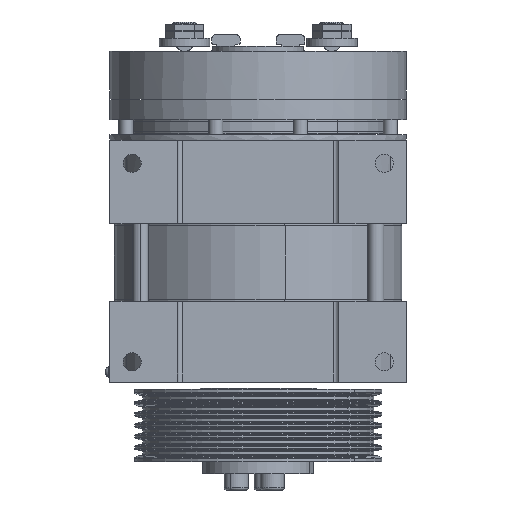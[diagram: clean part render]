
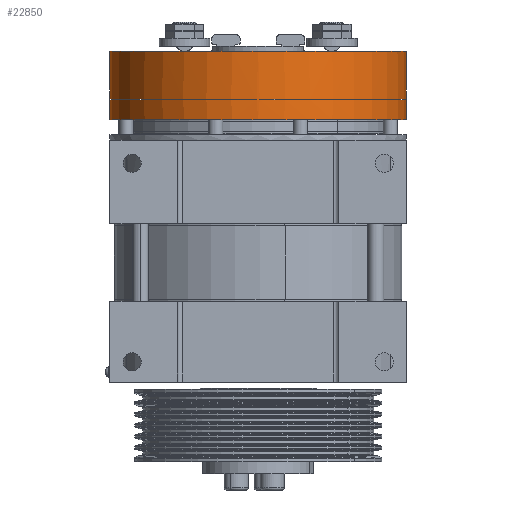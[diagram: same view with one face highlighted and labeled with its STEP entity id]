
A CAD part, front view. The second image highlights one B-rep face of the part: STEP entity #22850.
In plain terms, the highlighted cylindrical face has radius 147 mm (diameter 294 mm), a partial arc.
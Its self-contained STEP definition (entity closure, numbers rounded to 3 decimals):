
#1984 = CARTESIAN_POINT ( 'NONE',  ( -79.123, 17.34, 232.5 ) ) ;
#2468 = AXIS2_PLACEMENT_3D ( 'NONE', #24758, #52070, #64671 ) ;
#2995 = DIRECTION ( 'NONE',  ( 0., 1., 0. ) ) ;
#3074 = CARTESIAN_POINT ( 'NONE',  ( -224.623, -129.653, 125.43 ) ) ;
#3101 = ORIENTED_EDGE ( 'NONE', *, *, #53522, .T. ) ;
#3381 = ORIENTED_EDGE ( 'NONE', *, *, #11643, .F. ) ;
#4843 = CYLINDRICAL_SURFACE ( 'NONE', #68826, 147. ) ;
#4955 = CARTESIAN_POINT ( 'NONE',  ( -227.623, -129.653, 252.5 ) ) ;
#5248 = DIRECTION ( 'NONE',  ( 1., 0., 0. ) ) ;
#6685 = VERTEX_POINT ( 'NONE', #72410 ) ;
#6701 = CIRCLE ( 'NONE', #41310, 147. ) ;
#7099 = VERTEX_POINT ( 'NONE', #65667 ) ;
#8932 = EDGE_CURVE ( 'NONE', #29171, #78934, #65347, .T. ) ;
#9102 = VECTOR ( 'NONE', #42946, 1000. ) ;
#10123 = CARTESIAN_POINT ( 'NONE',  ( -79.123, 17.34, 252.5 ) ) ;
#10681 = LINE ( 'NONE', #70924, #57908 ) ;
#10918 = ORIENTED_EDGE ( 'NONE', *, *, #63093, .T. ) ;
#11643 = EDGE_CURVE ( 'NONE', #16127, #38223, #49287, .T. ) ;
#11947 = DIRECTION ( 'NONE',  ( 0., 0., 1. ) ) ;
#12671 = ORIENTED_EDGE ( 'NONE', *, *, #24014, .T. ) ;
#14081 = LINE ( 'NONE', #40116, #36235 ) ;
#15296 = DIRECTION ( 'NONE',  ( 0., 0., 1. ) ) ;
#15346 = VERTEX_POINT ( 'NONE', #19715 ) ;
#15392 = VECTOR ( 'NONE', #81413, 1000. ) ;
#16127 = VERTEX_POINT ( 'NONE', #4955 ) ;
#18840 = CARTESIAN_POINT ( 'NONE',  ( -226.123, 17.34, 252.5 ) ) ;
#19715 = CARTESIAN_POINT ( 'NONE',  ( -373.123, 17.34, 300.5 ) ) ;
#22850 = ADVANCED_FACE ( 'NONE', ( #37729 ), #4843, .T. ) ;
#24014 = EDGE_CURVE ( 'NONE', #77982, #29171, #10681, .T. ) ;
#24048 = DIRECTION ( 'NONE',  ( 0., 0., 1. ) ) ;
#24297 = CARTESIAN_POINT ( 'NONE',  ( -226.123, 17.34, 173.5 ) ) ;
#24758 = CARTESIAN_POINT ( 'NONE',  ( -226.123, 17.34, 300.5 ) ) ;
#25190 = EDGE_LOOP ( 'NONE', ( #73299, #51967, #12671, #64638, #80114, #73411, #66643, #64782, #31333, #10918, #3381, #3101 ) ) ;
#27632 = EDGE_CURVE ( 'NONE', #78934, #39356, #69804, .T. ) ;
#29005 = VERTEX_POINT ( 'NONE', #56101 ) ;
#29171 = VERTEX_POINT ( 'NONE', #10123 ) ;
#29534 = LINE ( 'NONE', #29964, #66597 ) ;
#29964 = CARTESIAN_POINT ( 'NONE',  ( -373.123, 17.34, 173.5 ) ) ;
#31333 = ORIENTED_EDGE ( 'NONE', *, *, #75247, .F. ) ;
#33075 = DIRECTION ( 'NONE',  ( 0., -1., 0. ) ) ;
#36235 = VECTOR ( 'NONE', #40532, 1000. ) ;
#36984 = CIRCLE ( 'NONE', #46707, 147. ) ;
#37606 = DIRECTION ( 'NONE',  ( 0., -1., 0. ) ) ;
#37729 = FACE_OUTER_BOUND ( 'NONE', #25190, .T. ) ;
#38223 = VERTEX_POINT ( 'NONE', #52945 ) ;
#39356 = VERTEX_POINT ( 'NONE', #83337 ) ;
#40116 = CARTESIAN_POINT ( 'NONE',  ( -373.123, 17.34, 173.5 ) ) ;
#40532 = DIRECTION ( 'NONE',  ( 0., 0., 1. ) ) ;
#41310 = AXIS2_PLACEMENT_3D ( 'NONE', #67511, #60173, #54071 ) ;
#42614 = DIRECTION ( 'NONE',  ( -1., 0., 0. ) ) ;
#42876 = CIRCLE ( 'NONE', #74731, 147. ) ;
#42946 = DIRECTION ( 'NONE',  ( 0., 0., 1. ) ) ;
#45034 = CARTESIAN_POINT ( 'NONE',  ( -79.123, 17.34, 253. ) ) ;
#45278 = DIRECTION ( 'NONE',  ( 0., 0., -1. ) ) ;
#46707 = AXIS2_PLACEMENT_3D ( 'NONE', #84066, #82346, #2995 ) ;
#48117 = VECTOR ( 'NONE', #24048, 1000. ) ;
#48223 = VERTEX_POINT ( 'NONE', #61483 ) ;
#49287 = LINE ( 'NONE', #67932, #15392 ) ;
#50381 = DIRECTION ( 'NONE',  ( 0., 0., 1. ) ) ;
#50769 = VERTEX_POINT ( 'NONE', #45034 ) ;
#51967 = ORIENTED_EDGE ( 'NONE', *, *, #59875, .T. ) ;
#52070 = DIRECTION ( 'NONE',  ( 0., 0., 1. ) ) ;
#52945 = CARTESIAN_POINT ( 'NONE',  ( -227.623, -129.653, 253. ) ) ;
#53077 = EDGE_CURVE ( 'NONE', #15346, #6685, #77204, .T. ) ;
#53522 = EDGE_CURVE ( 'NONE', #16127, #7099, #6701, .T. ) ;
#54071 = DIRECTION ( 'NONE',  ( 0., 1., 0. ) ) ;
#55201 = CARTESIAN_POINT ( 'NONE',  ( -226.123, 17.34, 232.5 ) ) ;
#56101 = CARTESIAN_POINT ( 'NONE',  ( -373.123, 17.34, 253. ) ) ;
#57908 = VECTOR ( 'NONE', #11947, 1000. ) ;
#58553 = DIRECTION ( 'NONE',  ( 0., 0., 1. ) ) ;
#59711 = AXIS2_PLACEMENT_3D ( 'NONE', #55201, #50381, #42614 ) ;
#59875 = EDGE_CURVE ( 'NONE', #48223, #77982, #69428, .T. ) ;
#60173 = DIRECTION ( 'NONE',  ( 0., 0., -1. ) ) ;
#61483 = CARTESIAN_POINT ( 'NONE',  ( -373.123, 17.34, 232.5 ) ) ;
#63093 = EDGE_CURVE ( 'NONE', #29005, #38223, #36984, .T. ) ;
#64638 = ORIENTED_EDGE ( 'NONE', *, *, #8932, .T. ) ;
#64671 = DIRECTION ( 'NONE',  ( 1., 0., 0. ) ) ;
#64782 = ORIENTED_EDGE ( 'NONE', *, *, #53077, .F. ) ;
#65347 = CIRCLE ( 'NONE', #79143, 147. ) ;
#65667 = CARTESIAN_POINT ( 'NONE',  ( -373.123, 17.34, 252.5 ) ) ;
#65748 = DIRECTION ( 'NONE',  ( 0., 0., 1. ) ) ;
#66084 = EDGE_CURVE ( 'NONE', #50769, #6685, #71749, .T. ) ;
#66597 = VECTOR ( 'NONE', #15296, 1000. ) ;
#66643 = ORIENTED_EDGE ( 'NONE', *, *, #66084, .T. ) ;
#67511 = CARTESIAN_POINT ( 'NONE',  ( -226.123, 17.34, 252.5 ) ) ;
#67932 = CARTESIAN_POINT ( 'NONE',  ( -227.623, -129.653, 125.43 ) ) ;
#68826 = AXIS2_PLACEMENT_3D ( 'NONE', #24297, #58553, #5248 ) ;
#69428 = CIRCLE ( 'NONE', #59711, 147. ) ;
#69804 = LINE ( 'NONE', #3074, #9102 ) ;
#70530 = EDGE_CURVE ( 'NONE', #48223, #7099, #14081, .T. ) ;
#70924 = CARTESIAN_POINT ( 'NONE',  ( -79.123, 17.34, 173.5 ) ) ;
#71749 = LINE ( 'NONE', #83074, #48117 ) ;
#72410 = CARTESIAN_POINT ( 'NONE',  ( -79.123, 17.34, 300.5 ) ) ;
#73299 = ORIENTED_EDGE ( 'NONE', *, *, #70530, .F. ) ;
#73411 = ORIENTED_EDGE ( 'NONE', *, *, #83430, .T. ) ;
#74731 = AXIS2_PLACEMENT_3D ( 'NONE', #79194, #65748, #37606 ) ;
#75247 = EDGE_CURVE ( 'NONE', #29005, #15346, #29534, .T. ) ;
#77204 = CIRCLE ( 'NONE', #2468, 147. ) ;
#77982 = VERTEX_POINT ( 'NONE', #1984 ) ;
#78934 = VERTEX_POINT ( 'NONE', #83604 ) ;
#79143 = AXIS2_PLACEMENT_3D ( 'NONE', #18840, #45278, #33075 ) ;
#79194 = CARTESIAN_POINT ( 'NONE',  ( -226.123, 17.34, 253. ) ) ;
#80114 = ORIENTED_EDGE ( 'NONE', *, *, #27632, .T. ) ;
#81413 = DIRECTION ( 'NONE',  ( 0., 0., 1. ) ) ;
#82346 = DIRECTION ( 'NONE',  ( 0., 0., 1. ) ) ;
#83074 = CARTESIAN_POINT ( 'NONE',  ( -79.123, 17.34, 173.5 ) ) ;
#83337 = CARTESIAN_POINT ( 'NONE',  ( -224.623, -129.653, 253. ) ) ;
#83430 = EDGE_CURVE ( 'NONE', #39356, #50769, #42876, .T. ) ;
#83604 = CARTESIAN_POINT ( 'NONE',  ( -224.623, -129.653, 252.5 ) ) ;
#84066 = CARTESIAN_POINT ( 'NONE',  ( -226.123, 17.34, 253. ) ) ;
